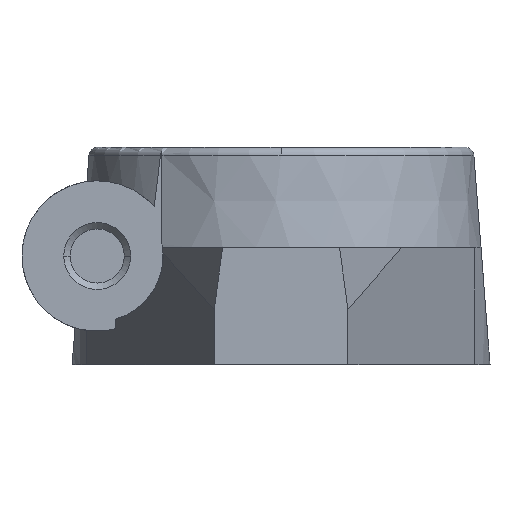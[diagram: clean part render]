
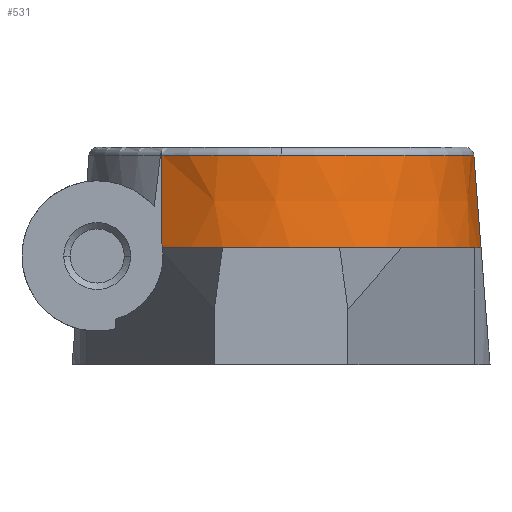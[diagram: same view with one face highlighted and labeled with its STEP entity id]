
A CAD part, left-side view. The second image highlights one B-rep face of the part: STEP entity #531.
In plain terms, the highlighted conical face has half-angle 4.399 degrees and reference radius 12 mm.
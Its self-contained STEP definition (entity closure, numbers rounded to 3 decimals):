
#5 = AXIS2_PLACEMENT_3D ( 'NONE', #217, #1406, #11 ) ;
#11 = DIRECTION ( 'NONE',  ( 0., -1., 0. ) ) ;
#107 = EDGE_CURVE ( 'NONE', #1450, #2130, #709, .T. ) ;
#175 = CARTESIAN_POINT ( 'NONE',  ( -9.071, 7.126, 12.538 ) ) ;
#217 = CARTESIAN_POINT ( 'NONE',  ( 0., 0., 6.5 ) ) ;
#273 = DIRECTION ( 'NONE',  ( 0., 0., -1. ) ) ;
#294 = CARTESIAN_POINT ( 'NONE',  ( 0., -12., 6.5 ) ) ;
#305 = CARTESIAN_POINT ( 'NONE',  ( -9.586, 7.126, 7.218 ) ) ;
#331 = ORIENTED_EDGE ( 'NONE', *, *, #1365, .T. ) ;
#386 = CARTESIAN_POINT ( 'NONE',  ( 0., -11.962, 7. ) ) ;
#392 = VERTEX_POINT ( 'NONE', #1180 ) ;
#440 = DIRECTION ( 'NONE',  ( 0., 0., -1. ) ) ;
#531 = ADVANCED_FACE ( 'NONE', ( #835 ), #1912, .T. ) ;
#621 = ORIENTED_EDGE ( 'NONE', *, *, #909, .T. ) ;
#676 = CARTESIAN_POINT ( 'NONE',  ( 0., 0., 12.538 ) ) ;
#709 = CIRCLE ( 'NONE', #789, 11.962 ) ;
#742 = CARTESIAN_POINT ( 'NONE',  ( -9.632, 7.092, 7. ) ) ;
#755 = EDGE_CURVE ( 'NONE', #2540, #1271, #1165, .T. ) ;
#789 = AXIS2_PLACEMENT_3D ( 'NONE', #2147, #2132, #1954 ) ;
#807 = CARTESIAN_POINT ( 'NONE',  ( -9.603, 7.113, 7.146 ) ) ;
#835 = FACE_OUTER_BOUND ( 'NONE', #2011, .T. ) ;
#909 = EDGE_CURVE ( 'NONE', #1271, #1555, #1797, .T. ) ;
#1013 = EDGE_CURVE ( 'NONE', #392, #2130, #2317, .T. ) ;
#1077 = DIRECTION ( 'NONE',  ( 1., 0., 0. ) ) ;
#1119 = CARTESIAN_POINT ( 'NONE',  ( -11.536, 0., 12.538 ) ) ;
#1144 = ORIENTED_EDGE ( 'NONE', *, *, #107, .F. ) ;
#1165 = CIRCLE ( 'NONE', #1492, 11.536 ) ;
#1180 = CARTESIAN_POINT ( 'NONE',  ( -9.586, 7.126, 7.218 ) ) ;
#1271 = VERTEX_POINT ( 'NONE', #1119 ) ;
#1340 = ORIENTED_EDGE ( 'NONE', *, *, #1013, .T. ) ;
#1365 = EDGE_CURVE ( 'NONE', #1555, #392, #1482, .T. ) ;
#1406 = DIRECTION ( 'NONE',  ( 0., 0., -1. ) ) ;
#1448 = VECTOR ( 'NONE', #2258, 1000. ) ;
#1450 = VERTEX_POINT ( 'NONE', #386 ) ;
#1479 = LINE ( 'NONE', #294, #1448 ) ;
#1482 =( BOUNDED_CURVE ( )  B_SPLINE_CURVE ( 2, ( #2073, #1902, #305 ),
 .UNSPECIFIED., .F., .T. ) 
 B_SPLINE_CURVE_WITH_KNOTS ( ( 3, 3 ),
 ( 0.477, 5.815 ),
 .UNSPECIFIED. ) 
 CURVE ( )  GEOMETRIC_REPRESENTATION_ITEM ( )  RATIONAL_B_SPLINE_CURVE ( ( 1., 1., 1. ) ) 
 REPRESENTATION_ITEM ( '' )  );
#1486 = ORIENTED_EDGE ( 'NONE', *, *, #2031, .F. ) ;
#1492 = AXIS2_PLACEMENT_3D ( 'NONE', #676, #273, #1077 ) ;
#1555 = VERTEX_POINT ( 'NONE', #175 ) ;
#1797 = CIRCLE ( 'NONE', #1921, 11.536 ) ;
#1798 = ORIENTED_EDGE ( 'NONE', *, *, #755, .T. ) ;
#1902 = CARTESIAN_POINT ( 'NONE',  ( -9.324, 7.126, 9.952 ) ) ;
#1912 = CONICAL_SURFACE ( 'NONE', #5, 12., 0.077 ) ;
#1921 = AXIS2_PLACEMENT_3D ( 'NONE', #2207, #440, #2149 ) ;
#1954 = DIRECTION ( 'NONE',  ( 0., 1., 0. ) ) ;
#2011 = EDGE_LOOP ( 'NONE', ( #1486, #1798, #621, #331, #1340, #1144 ) ) ;
#2031 = EDGE_CURVE ( 'NONE', #2540, #1450, #1479, .T. ) ;
#2073 = CARTESIAN_POINT ( 'NONE',  ( -9.071, 7.126, 12.538 ) ) ;
#2130 = VERTEX_POINT ( 'NONE', #742 ) ;
#2132 = DIRECTION ( 'NONE',  ( 0., 0., -1. ) ) ;
#2147 = CARTESIAN_POINT ( 'NONE',  ( 0., 0., 7. ) ) ;
#2149 = DIRECTION ( 'NONE',  ( 1., 0., 0. ) ) ;
#2198 = CARTESIAN_POINT ( 'NONE',  ( -9.632, 7.092, 7. ) ) ;
#2207 = CARTESIAN_POINT ( 'NONE',  ( 0., 0., 12.538 ) ) ;
#2258 = DIRECTION ( 'NONE',  ( 0., -0.077, -0.997 ) ) ;
#2317 = B_SPLINE_CURVE_WITH_KNOTS ( 'NONE', 3,
 ( #2406, #807, #2394, #2198 ),
 .UNSPECIFIED., .F., .F.,
 ( 4, 4 ),
 ( -0.088, -0.067 ),
 .UNSPECIFIED. ) ;
#2394 = CARTESIAN_POINT ( 'NONE',  ( -9.619, 7.101, 7.073 ) ) ;
#2406 = CARTESIAN_POINT ( 'NONE',  ( -9.586, 7.126, 7.218 ) ) ;
#2540 = VERTEX_POINT ( 'NONE', #2548 ) ;
#2548 = CARTESIAN_POINT ( 'NONE',  ( 0., -11.536, 12.538 ) ) ;
